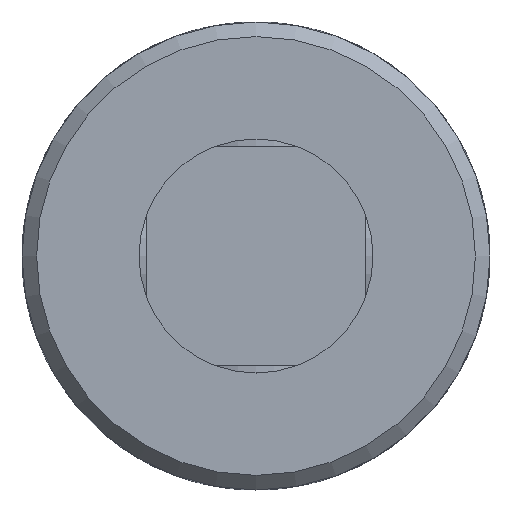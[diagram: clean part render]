
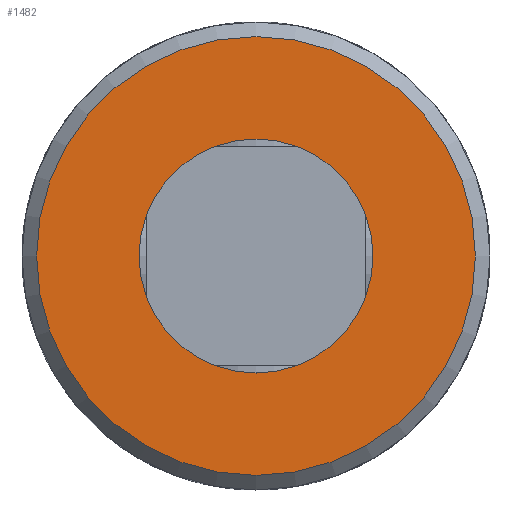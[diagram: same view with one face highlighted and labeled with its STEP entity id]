
A CAD part, front view. The second image highlights one B-rep face of the part: STEP entity #1482.
In plain terms, the highlighted planar face has unit normal (0, -1, 0).
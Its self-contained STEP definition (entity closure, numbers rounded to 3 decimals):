
#257=PLANE('',#1633);
#334=FACE_BOUND('',#543,.T.);
#412=FACE_OUTER_BOUND('',#542,.T.);
#542=EDGE_LOOP('',(#1295));
#543=EDGE_LOOP('',(#1296));
#626=CIRCLE('',#1628,20.);
#628=CIRCLE('',#1631,37.5);
#754=VERTEX_POINT('',#2977);
#756=VERTEX_POINT('',#2982);
#939=EDGE_CURVE('',#754,#754,#626,.T.);
#941=EDGE_CURVE('',#756,#756,#628,.T.);
#1295=ORIENTED_EDGE('',*,*,#941,.F.);
#1296=ORIENTED_EDGE('',*,*,#939,.T.);
#1482=ADVANCED_FACE('',(#412,#334),#257,.F.);
#1628=AXIS2_PLACEMENT_3D('',#2978,#1954,#1955);
#1631=AXIS2_PLACEMENT_3D('',#2983,#1960,#1961);
#1633=AXIS2_PLACEMENT_3D('',#3223,#1968,#1969);
#1954=DIRECTION('center_axis',(0.,1.,0.));
#1955=DIRECTION('ref_axis',(-1.,0.,0.));
#1960=DIRECTION('center_axis',(0.,1.,0.));
#1961=DIRECTION('ref_axis',(1.,0.,0.));
#1968=DIRECTION('center_axis',(0.,1.,0.));
#1969=DIRECTION('ref_axis',(0.,0.,1.));
#2977=CARTESIAN_POINT('',(20.,-99.,0.));
#2978=CARTESIAN_POINT('Origin',(0.,-99.,0.));
#2982=CARTESIAN_POINT('',(-37.5,-99.,0.));
#2983=CARTESIAN_POINT('Origin',(0.,-99.,0.));
#3223=CARTESIAN_POINT('Origin',(0.,-99.,0.));
